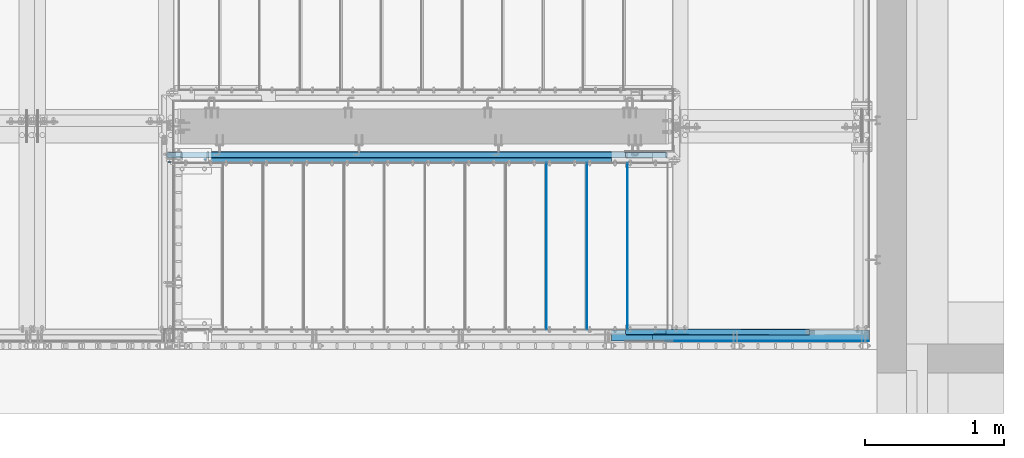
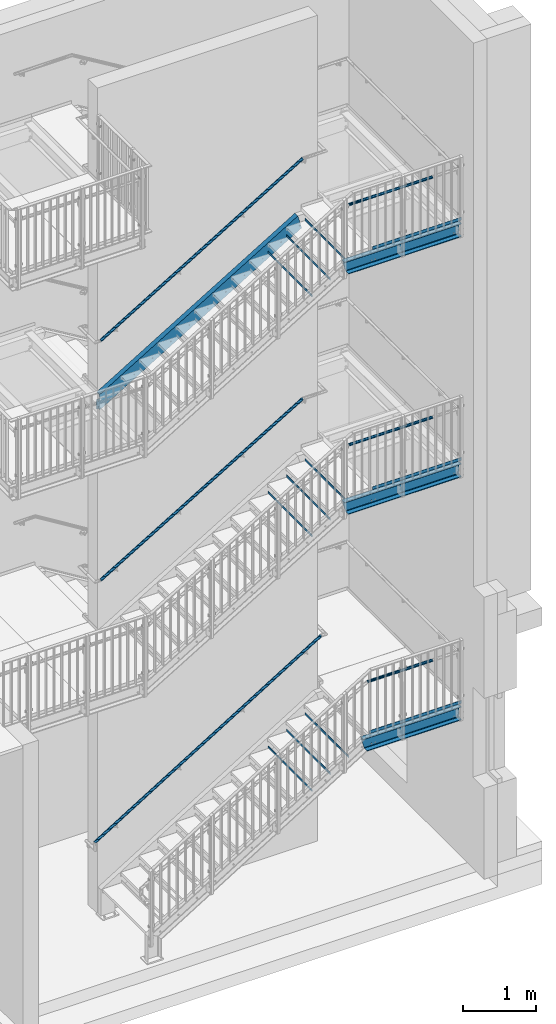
# One storey, part 33 of 410: 18 beams, 4 members, 47 openings.
"""IFC2X3 building model written with IfcOpenShell, lengths in millimetres."""

from ifc_helpers import new_model, entity, si_unit, converted_unit, point, frame, frame_2d, origin, origin_with_axes, origin_2d, origin_2d_with_axis, place, context, project, spatial, circle_curve, line_curve, trimmed, segment, composite_curve, rectangle, circle, hollow_circle, u_section, outline, extrude, clip, halfspace, material, element, save


model = new_model("IFC2X3")

# Units and contexts
model_context = context("Model", 3, precision=1e-09, world=origin_with_axes())
ifc_project = project(units=[si_unit("LENGTHUNIT", "METRE", prefix="MILLI"), si_unit("AREAUNIT", "SQUARE_METRE"), si_unit("VOLUMEUNIT", "CUBIC_METRE"), converted_unit("PLANEANGLEUNIT", "DEGREE", entity("IfcPlaneAngleMeasure", 0.01745329), si_unit("PLANEANGLEUNIT", "RADIAN"), dimensions=[0, 0, 0, 0, 0, 0, 0])], contexts=[model_context])

# Site, building, storey
site_placement = place(None, origin_with_axes())
site = spatial("IfcSite", under=ifc_project, at=site_placement, Name="mKR Teilneubau & Sanierung BA1 - Ostfildern", CompositionType="ELEMENT")
building_placement = place(site_placement, origin_with_axes())
building = spatial("IfcBuilding", under=site, at=building_placement, Name="Struktur 1", CompositionType="ELEMENT")
storey_placement = place(building_placement, origin_with_axes())
storey = spatial("IfcBuildingStorey", under=building, at=storey_placement, Name="Default Storey", CompositionType="ELEMENT", Elevation=0.0)

# Beams
ifc_material = material(Name="S235JR")
for number, where, z_axis, x_axis in (
    (1, (918.5, 15519.999999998, -2840.8), (0.0, -1.0, 0.0), (1.0, 0.0, 0.0)),
    (2, (1208.5, 15519.999999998, -2662.0), (0.0, -1.0, 0.0), (1.0, 0.0, 0.0)),
    (3, (1498.5, 15519.999999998, -2483.2), (0.0, -1.0, 0.0), (1.0, 0.0, 0.0)),
    (4, (918.5, 15519.999999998, 1411.304348), (0.0, -1.0, 0.0), (1.0, 0.0, 0.0)),
    (5, (1208.5, 15519.999999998, 1585.2173915), (0.0, -1.0, 0.0), (1.0, 0.0, 0.0)),
    (6, (1498.5, 15519.999999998, 1759.130435), (0.0, -1.0, 0.0), (1.0, 0.0, 0.0)),
    (7, (918.5, 15519.999999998, 5420.0), (0.0, -1.0, 0.0), (1.0, 0.0, 0.0)),
    (8, (1208.5, 15519.999999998, 5595.0), (0.0, -1.0, 0.0), (1.0, 0.0, 0.0)),
    (9, (1498.5, 15519.999999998, 5770.0), (0.0, -1.0, 0.0), (1.0, 0.0, 0.0)),
):
    element("IfcBeam", number, at=place(None, frame(where, z_axis=z_axis, x_axis=x_axis)), inside=storey, material=ifc_material, Name="-", ObjectType="-", context=model_context, shape_type="SweptSolid", body=[
        extrude(rectangle(XDim=3.0, YDim=40.0, at=origin_2d()), origin(), (0.0, 0.0, -1.0), 1200.0),
    ])

# Member, openings
member_1_placement = place(None, frame((1644.189532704, 16741.399999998, 5892.586142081), z_axis=(-0.856187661, 0.0, -0.516664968), x_axis=(0.0, 1.0, 0.0)))
member_1 = element("IfcMember", 10, at=member_1_placement, inside=storey, material=ifc_material, Name="-", ObjectType="-", context=model_context, shape_type="Clipping", body=[
    clip(extrude(u_section(Depth=220.0, FlangeWidth=80.0, WebThickness=9.0, FlangeThickness=12.5, FilletRadius=12.5, EdgeRadius=6.0, FlangeSlope=4.574, at=frame_2d((18.6, 0.0))), origin(), (0.0, 0.0, 1.0), 4079.932349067), halfspace(frame((-16741.399999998, 4975.331939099, 1651.168270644), z_axis=(0.0, -0.268153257, 0.963376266), x_axis=(-1.0, 0.0, 0.0)), True)),
])
opening_1_placement = place(member_1_placement, frame((-121.5, 180.2408283, 4067.228885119), z_axis=(-1.0, 0.0, 0.0), x_axis=(0.0, -0.856187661, -0.516664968)))
element("IfcOpeningElement", 11, at=opening_1_placement, cuts=member_1, ObjectType="Opening", context=model_context, shape_type="SweptSolid", body=[
    extrude(outline(composite_curve([segment(trimmed(line_curve((0.0, 0.0), (1.0, 0.0), 108.128512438), [point((0.0, 0.0))], [point((108.128512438, 0.0))], True, "CARTESIAN"), True, "CONTINUOUS"), segment(trimmed(circle_curve(frame_2d((108.128512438, 5.001), x_axis=(1.0, 0.0)), 5.001), [point((108.128512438, 0.0))], [point((113.129512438, 5.001))], True, "CARTESIAN"), True, "CONTINUOUS"), segment(trimmed(line_curve((113.129512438, 5.001), (0.0, 1.0), 47.048), [point((113.129512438, 5.001))], [point((113.129512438, 52.049))], True, "CARTESIAN"), True, "CONTINUOUS"), segment(trimmed(line_curve((113.129512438, 52.049), (1.0, 0.0), 159.998), [point((113.129512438, 52.049))], [point((273.127512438, 52.049))], True, "CARTESIAN"), True, "CONTINUOUS"), segment(trimmed(line_curve((273.127512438, 52.049), (0.0, -1.0), 47.048), [point((273.127512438, 52.049))], [point((273.127512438, 5.001))], True, "CARTESIAN"), True, "CONTINUOUS"), segment(trimmed(circle_curve(frame_2d((278.128512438, 5.001), x_axis=(1.0, 0.0)), 5.001), [point((273.127512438, 5.001))], [point((278.128512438, 0.0))], True, "CARTESIAN"), True, "CONTINUOUS"), segment(trimmed(line_curve((278.128512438, 0.0), (1.0, 0.0), 97.344799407), [point((278.128512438, 0.0))], [point((375.473311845, 0.0))], True, "CARTESIAN"), True, "CONTINUOUS"), segment(trimmed(line_curve((375.473311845, 0.0), (0.0, 1.0), 221.769754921), [point((375.473311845, 0.0))], [point((375.473311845, 221.769754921))], True, "CARTESIAN"), True, "CONTINUOUS"), segment(trimmed(line_curve((375.473311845, 221.769754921), (-1.0, 0.0), 375.473311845), [point((375.473311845, 221.769754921))], [point((0.0, 221.769754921))], True, "CARTESIAN"), True, "CONTINUOUS"), segment(trimmed(line_curve((0.0, 221.769754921), (0.0, -1.0), 221.769754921), [point((0.0, 221.769754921))], [point((0.0, 0.0))], True, "CARTESIAN"), True, "CONTINUOUS")], self_intersect=False)), origin(), (0.0, 0.0, -1.0), 280.2),
])
opening_2_placement = place(member_1_placement, frame((-21.9, 48.173289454, 1318.728399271), z_axis=(1.0, 0.0, 0.0), x_axis=(0.0, 0.516664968, -0.856187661)))
element("IfcOpeningElement", 12, at=opening_2_placement, cuts=member_1, ObjectType="Opening", context=model_context, shape_type="SweptSolid", body=[
    extrude(circle(Radius=7.001, at=origin_2d_with_axis()), origin(), (0.0, 0.0, 1.0), 10.0),
])
opening_3_placement = place(member_1_placement, frame((-21.9, 48.173289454, 1657.43919036), z_axis=(1.0, 0.0, 0.0), x_axis=(0.0, 0.516664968, -0.856187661)))
element("IfcOpeningElement", 13, at=opening_3_placement, cuts=member_1, ObjectType="Opening", context=model_context, shape_type="SweptSolid", body=[
    extrude(circle(Radius=7.001, at=origin_2d_with_axis()), origin(), (0.0, 0.0, 1.0), 10.0),
])
opening_4_placement = place(member_1_placement, frame((-21.9, -44.826404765, 1472.842178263), z_axis=(1.0, 0.0, 0.0), x_axis=(0.0, 0.516664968, -0.856187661)))
element("IfcOpeningElement", 14, at=opening_4_placement, cuts=member_1, ObjectType="Opening", context=model_context, shape_type="SweptSolid", body=[
    extrude(circle(Radius=7.001, at=origin_2d_with_axis()), origin(), (0.0, 0.0, 1.0), 10.0),
])
opening_5_placement = place(member_1_placement, frame((-21.9, 48.173289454, 980.017608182), z_axis=(1.0, 0.0, 0.0), x_axis=(0.0, 0.516664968, -0.856187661)))
element("IfcOpeningElement", 15, at=opening_5_placement, cuts=member_1, ObjectType="Opening", context=model_context, shape_type="SweptSolid", body=[
    extrude(circle(Radius=7.001, at=origin_2d_with_axis()), origin(), (0.0, 0.0, 1.0), 10.0),
])
opening_6_placement = place(member_1_placement, frame((-21.9, 48.173289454, 641.306817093), z_axis=(1.0, 0.0, 0.0), x_axis=(0.0, 0.516664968, -0.856187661)))
element("IfcOpeningElement", 16, at=opening_6_placement, cuts=member_1, ObjectType="Opening", context=model_context, shape_type="SweptSolid", body=[
    extrude(circle(Radius=7.001, at=origin_2d_with_axis()), origin(), (0.0, 0.0, 1.0), 10.0),
])
opening_7_placement = place(member_1_placement, frame((-21.9, -44.826404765, 795.420596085), z_axis=(1.0, 0.0, 0.0), x_axis=(0.0, 0.516664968, -0.856187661)))
element("IfcOpeningElement", 17, at=opening_7_placement, cuts=member_1, ObjectType="Opening", context=model_context, shape_type="SweptSolid", body=[
    extrude(circle(Radius=7.001, at=origin_2d_with_axis()), origin(), (0.0, 0.0, 1.0), 10.0),
])
opening_8_placement = place(member_1_placement, frame((-21.9, -44.826404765, 456.709804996), z_axis=(1.0, 0.0, 0.0), x_axis=(0.0, 0.516664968, -0.856187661)))
element("IfcOpeningElement", 18, at=opening_8_placement, cuts=member_1, ObjectType="Opening", context=model_context, shape_type="SweptSolid", body=[
    extrude(circle(Radius=7.001, at=origin_2d_with_axis()), origin(), (0.0, 0.0, 1.0), 10.0),
])
opening_9_placement = place(member_1_placement, frame((-21.9, 48.173289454, 302.596026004), z_axis=(1.0, 0.0, 0.0), x_axis=(0.0, 0.516664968, -0.856187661)))
element("IfcOpeningElement", 19, at=opening_9_placement, cuts=member_1, ObjectType="Opening", context=model_context, shape_type="SweptSolid", body=[
    extrude(circle(Radius=7.001, at=origin_2d_with_axis()), origin(), (0.0, 0.0, 1.0), 10.0),
])
opening_10_placement = place(member_1_placement, frame((-21.9, -44.826404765, 1134.131387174), z_axis=(1.0, 0.0, 0.0), x_axis=(0.0, 0.516664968, -0.856187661)))
element("IfcOpeningElement", 20, at=opening_10_placement, cuts=member_1, ObjectType="Opening", context=model_context, shape_type="SweptSolid", body=[
    extrude(circle(Radius=7.001, at=origin_2d_with_axis()), origin(), (0.0, 0.0, 1.0), 10.0),
])
opening_11_placement = place(member_1_placement, frame((-21.9, 48.173289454, 2673.571563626), z_axis=(1.0, 0.0, 0.0), x_axis=(0.0, 0.516664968, -0.856187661)))
element("IfcOpeningElement", 21, at=opening_11_placement, cuts=member_1, ObjectType="Opening", context=model_context, shape_type="SweptSolid", body=[
    extrude(circle(Radius=7.001, at=origin_2d_with_axis()), origin(), (0.0, 0.0, 1.0), 10.0),
])
opening_12_placement = place(member_1_placement, frame((-21.9, 48.173289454, 2334.860772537), z_axis=(1.0, 0.0, 0.0), x_axis=(0.0, 0.516664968, -0.856187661)))
element("IfcOpeningElement", 22, at=opening_12_placement, cuts=member_1, ObjectType="Opening", context=model_context, shape_type="SweptSolid", body=[
    extrude(circle(Radius=7.001, at=origin_2d_with_axis()), origin(), (0.0, 0.0, 1.0), 10.0),
])
opening_13_placement = place(member_1_placement, frame((-21.9, -44.826404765, 1811.552969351), z_axis=(1.0, 0.0, 0.0), x_axis=(0.0, 0.516664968, -0.856187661)))
element("IfcOpeningElement", 23, at=opening_13_placement, cuts=member_1, ObjectType="Opening", context=model_context, shape_type="SweptSolid", body=[
    extrude(circle(Radius=7.001, at=origin_2d_with_axis()), origin(), (0.0, 0.0, 1.0), 10.0),
])
opening_14_placement = place(member_1_placement, frame((-21.9, -44.826404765, 2150.26376044), z_axis=(1.0, 0.0, 0.0), x_axis=(0.0, 0.516664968, -0.856187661)))
element("IfcOpeningElement", 24, at=opening_14_placement, cuts=member_1, ObjectType="Opening", context=model_context, shape_type="SweptSolid", body=[
    extrude(circle(Radius=7.001, at=origin_2d_with_axis()), origin(), (0.0, 0.0, 1.0), 10.0),
])
opening_15_placement = place(member_1_placement, frame((-21.9, -44.826404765, 3166.396133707), z_axis=(1.0, 0.0, 0.0), x_axis=(0.0, 0.516664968, -0.856187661)))
element("IfcOpeningElement", 25, at=opening_15_placement, cuts=member_1, ObjectType="Opening", context=model_context, shape_type="SweptSolid", body=[
    extrude(circle(Radius=7.001, at=origin_2d_with_axis()), origin(), (0.0, 0.0, 1.0), 10.0),
])
opening_16_placement = place(member_1_placement, frame((-21.9, 48.173289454, 3012.282354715), z_axis=(1.0, 0.0, 0.0), x_axis=(0.0, 0.516664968, -0.856187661)))
element("IfcOpeningElement", 26, at=opening_16_placement, cuts=member_1, ObjectType="Opening", context=model_context, shape_type="SweptSolid", body=[
    extrude(circle(Radius=7.001, at=origin_2d_with_axis()), origin(), (0.0, 0.0, 1.0), 10.0),
])
opening_17_placement = place(member_1_placement, frame((-21.9, -44.826404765, 3505.106924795), z_axis=(1.0, 0.0, 0.0), x_axis=(0.0, 0.516664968, -0.856187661)))
element("IfcOpeningElement", 27, at=opening_17_placement, cuts=member_1, ObjectType="Opening", context=model_context, shape_type="SweptSolid", body=[
    extrude(circle(Radius=7.001, at=origin_2d_with_axis()), origin(), (0.0, 0.0, 1.0), 10.0),
])
opening_18_placement = place(member_1_placement, frame((-21.9, -44.826404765, 2827.685342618), z_axis=(1.0, 0.0, 0.0), x_axis=(0.0, 0.516664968, -0.856187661)))
element("IfcOpeningElement", 28, at=opening_18_placement, cuts=member_1, ObjectType="Opening", context=model_context, shape_type="SweptSolid", body=[
    extrude(circle(Radius=7.001, at=origin_2d_with_axis()), origin(), (0.0, 0.0, 1.0), 10.0),
])
opening_19_placement = place(member_1_placement, frame((-21.9, 48.173289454, 3350.993145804), z_axis=(1.0, 0.0, 0.0), x_axis=(0.0, 0.516664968, -0.856187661)))
element("IfcOpeningElement", 29, at=opening_19_placement, cuts=member_1, ObjectType="Opening", context=model_context, shape_type="SweptSolid", body=[
    extrude(circle(Radius=7.001, at=origin_2d_with_axis()), origin(), (0.0, 0.0, 1.0), 10.0),
])
opening_20_placement = place(member_1_placement, frame((-21.9, -44.826404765, 2488.974551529), z_axis=(1.0, 0.0, 0.0), x_axis=(0.0, 0.516664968, -0.856187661)))
element("IfcOpeningElement", 30, at=opening_20_placement, cuts=member_1, ObjectType="Opening", context=model_context, shape_type="SweptSolid", body=[
    extrude(circle(Radius=7.001, at=origin_2d_with_axis()), origin(), (0.0, 0.0, 1.0), 10.0),
])
opening_21_placement = place(member_1_placement, frame((-11.9, 42.169146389, 4019.009548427), z_axis=(1.0, 0.0, 0.0), x_axis=(0.0, 1.0, 0.0)))
element("IfcOpeningElement", 31, at=opening_21_placement, cuts=member_1, ObjectType="Opening", context=model_context, shape_type="SweptSolid", body=[
    extrude(circle(Radius=9.001, at=frame_2d((4.650501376, -7.706545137), x_axis=(1.0, 0.0))), origin(), (0.0, 0.0, -1.0), 10.0),
])
opening_22_placement = place(member_1_placement, frame((-11.9, -43.449619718, 3967.343051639), z_axis=(1.0, 0.0, 0.0), x_axis=(0.0, 1.0, 0.0)))
element("IfcOpeningElement", 32, at=opening_22_placement, cuts=member_1, ObjectType="Opening", context=model_context, shape_type="SweptSolid", body=[
    extrude(circle(Radius=9.001, at=frame_2d((4.650501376, -7.706545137), x_axis=(1.0, 0.0))), origin(), (0.0, 0.0, -1.0), 10.0),
])
opening_23_placement = place(member_1_placement, frame((-21.9, 48.173289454, 1996.149981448), z_axis=(1.0, 0.0, 0.0), x_axis=(0.0, 0.516664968, -0.856187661)))
element("IfcOpeningElement", 33, at=opening_23_placement, cuts=member_1, ObjectType="Opening", context=model_context, shape_type="SweptSolid", body=[
    extrude(circle(Radius=7.001, at=origin_2d_with_axis()), origin(), (0.0, 0.0, 1.0), 10.0),
])

# Beam, openings
beam_1_placement = place(None, frame((3235.001468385, 15498.599999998, -2315.6), z_axis=(1.0, 0.0, 0.0), x_axis=(0.0, -1.0, 0.0)))
beam_1 = element("IfcBeam", 34, at=beam_1_placement, inside=storey, material=ifc_material, Name="-", ObjectType="-", context=model_context, shape_type="Clipping", body=[
    clip(extrude(u_section(Depth=220.0, FlangeWidth=80.0, WebThickness=9.0, FlangeThickness=12.5, FilletRadius=12.5, EdgeRadius=6.0, FlangeSlope=4.574, at=frame_2d((18.6, 0.0))), origin(), (0.0, 0.0, -1.0), 1793.311677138), halfspace(frame((15498.599999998, -2591.759085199, -2260.892532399), z_axis=(0.0, -0.272750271, 0.962084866), x_axis=(-1.0, 0.0, 0.0)), True)),
])
opening_24_placement = place(beam_1_placement, frame((-21.9, -1.6e-08, -1354.999999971), z_axis=(1.0, 0.0, 0.0), x_axis=(0.0, 0.0, 1.0)))
element("IfcOpeningElement", 35, at=opening_24_placement, cuts=beam_1, ObjectType="Opening", context=model_context, shape_type="SweptSolid", body=[
    extrude(circle(Radius=7.001, at=frame_2d((30.0, 60.0), x_axis=(1.0, 0.0))), origin(), (0.0, 0.0, 1.0), 10.0),
])
opening_25_placement = place(beam_1_placement, frame((-21.9, -1.6e-08, -1354.999999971), z_axis=(1.0, 0.0, 0.0), x_axis=(0.0, 0.0, 1.0)))
element("IfcOpeningElement", 36, at=opening_25_placement, cuts=beam_1, ObjectType="Opening", context=model_context, shape_type="SweptSolid", body=[
    extrude(circle(Radius=7.001, at=frame_2d((-30.0, 60.0), x_axis=(1.0, 0.0))), origin(), (0.0, 0.0, 1.0), 10.0),
])
opening_26_placement = place(beam_1_placement, frame((-21.9, -1.6e-08, -1354.999999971), z_axis=(1.0, 0.0, 0.0), x_axis=(0.0, 0.0, 1.0)))
element("IfcOpeningElement", 37, at=opening_26_placement, cuts=beam_1, ObjectType="Opening", context=model_context, shape_type="SweptSolid", body=[
    extrude(circle(Radius=7.001, at=frame_2d((30.0, -60.0), x_axis=(1.0, 0.0))), origin(), (0.0, 0.0, 1.0), 10.0),
])
opening_27_placement = place(beam_1_placement, frame((-21.9, -1.6e-08, -1354.999999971), z_axis=(1.0, 0.0, 0.0), x_axis=(0.0, 0.0, 1.0)))
element("IfcOpeningElement", 38, at=opening_27_placement, cuts=beam_1, ObjectType="Opening", context=model_context, shape_type="SweptSolid", body=[
    extrude(circle(Radius=7.001, at=frame_2d((-30.0, -60.0), x_axis=(1.0, 0.0))), origin(), (0.0, 0.0, 1.0), 10.0),
])
opening_28_placement = place(beam_1_placement, frame((-21.9, -1.6e-08, -54.999999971), z_axis=(1.0, 0.0, 0.0), x_axis=(0.0, 0.0, 1.0)))
element("IfcOpeningElement", 39, at=opening_28_placement, cuts=beam_1, ObjectType="Opening", context=model_context, shape_type="SweptSolid", body=[
    extrude(circle(Radius=7.001, at=frame_2d((30.0, 60.0), x_axis=(1.0, 0.0))), origin(), (0.0, 0.0, 1.0), 10.0),
])
opening_29_placement = place(beam_1_placement, frame((-21.9, -1.6e-08, -54.999999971), z_axis=(1.0, 0.0, 0.0), x_axis=(0.0, 0.0, 1.0)))
element("IfcOpeningElement", 40, at=opening_29_placement, cuts=beam_1, ObjectType="Opening", context=model_context, shape_type="SweptSolid", body=[
    extrude(circle(Radius=7.001, at=frame_2d((-30.0, 60.0), x_axis=(1.0, 0.0))), origin(), (0.0, 0.0, 1.0), 10.0),
])
opening_30_placement = place(beam_1_placement, frame((-21.9, -1.6e-08, -54.999999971), z_axis=(1.0, 0.0, 0.0), x_axis=(0.0, 0.0, 1.0)))
element("IfcOpeningElement", 41, at=opening_30_placement, cuts=beam_1, ObjectType="Opening", context=model_context, shape_type="SweptSolid", body=[
    extrude(circle(Radius=7.001, at=frame_2d((30.0, -60.0), x_axis=(1.0, 0.0))), origin(), (0.0, 0.0, 1.0), 10.0),
])
opening_31_placement = place(beam_1_placement, frame((-21.9, -1.6e-08, -54.999999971), z_axis=(1.0, 0.0, 0.0), x_axis=(0.0, 0.0, 1.0)))
element("IfcOpeningElement", 42, at=opening_31_placement, cuts=beam_1, ObjectType="Opening", context=model_context, shape_type="SweptSolid", body=[
    extrude(circle(Radius=7.001, at=frame_2d((-30.0, -60.0), x_axis=(1.0, 0.0))), origin(), (0.0, 0.0, 1.0), 10.0),
])

beam_2_placement = place(None, frame((3235.001468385, 15498.599999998, 1743.0434785), z_axis=(1.0, 0.0, 0.0), x_axis=(0.0, -1.0, 0.0)))
beam_2 = element("IfcBeam", 43, at=beam_2_placement, inside=storey, material=ifc_material, Name="-", ObjectType="-", context=model_context, shape_type="Clipping", body=[
    clip(extrude(u_section(Depth=220.0, FlangeWidth=80.0, WebThickness=9.0, FlangeThickness=12.5, FilletRadius=12.5, EdgeRadius=6.0, FlangeSlope=4.574, at=frame_2d((18.6, 0.0))), origin(), (0.0, 0.0, -1.0), 2085.639877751), halfspace(frame((15498.599999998, 1254.967899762, -1472.138243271), z_axis=(0.0, -0.266827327, 0.963744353), x_axis=(-1.0, 0.0, 0.0)), True)),
])
opening_32_placement = place(beam_2_placement, frame((-21.9, -1.6e-08, -54.999999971), z_axis=(1.0, 0.0, 0.0), x_axis=(0.0, 0.0, 1.0)))
element("IfcOpeningElement", 44, at=opening_32_placement, cuts=beam_2, ObjectType="Opening", context=model_context, shape_type="SweptSolid", body=[
    extrude(circle(Radius=7.001, at=frame_2d((30.0, 60.0), x_axis=(1.0, 0.0))), origin(), (0.0, 0.0, 1.0), 10.0),
])
opening_33_placement = place(beam_2_placement, frame((-21.9, -1.6e-08, -54.999999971), z_axis=(1.0, 0.0, 0.0), x_axis=(0.0, 0.0, 1.0)))
element("IfcOpeningElement", 45, at=opening_33_placement, cuts=beam_2, ObjectType="Opening", context=model_context, shape_type="SweptSolid", body=[
    extrude(circle(Radius=7.001, at=frame_2d((-30.0, 60.0), x_axis=(1.0, 0.0))), origin(), (0.0, 0.0, 1.0), 10.0),
])
opening_34_placement = place(beam_2_placement, frame((-21.9, -1.6e-08, -54.999999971), z_axis=(1.0, 0.0, 0.0), x_axis=(0.0, 0.0, 1.0)))
element("IfcOpeningElement", 46, at=opening_34_placement, cuts=beam_2, ObjectType="Opening", context=model_context, shape_type="SweptSolid", body=[
    extrude(circle(Radius=7.001, at=frame_2d((30.0, -60.0), x_axis=(1.0, 0.0))), origin(), (0.0, 0.0, 1.0), 10.0),
])
opening_35_placement = place(beam_2_placement, frame((-21.9, -1.6e-08, -54.999999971), z_axis=(1.0, 0.0, 0.0), x_axis=(0.0, 0.0, 1.0)))
element("IfcOpeningElement", 47, at=opening_35_placement, cuts=beam_2, ObjectType="Opening", context=model_context, shape_type="SweptSolid", body=[
    extrude(circle(Radius=7.001, at=frame_2d((-30.0, -60.0), x_axis=(1.0, 0.0))), origin(), (0.0, 0.0, 1.0), 10.0),
])
opening_36_placement = place(beam_2_placement, frame((-21.9, -1.6e-08, -1354.999999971), z_axis=(1.0, 0.0, 0.0), x_axis=(0.0, 0.0, 1.0)))
element("IfcOpeningElement", 48, at=opening_36_placement, cuts=beam_2, ObjectType="Opening", context=model_context, shape_type="SweptSolid", body=[
    extrude(circle(Radius=7.001, at=frame_2d((30.0, 60.0), x_axis=(1.0, 0.0))), origin(), (0.0, 0.0, 1.0), 10.0),
])
opening_37_placement = place(beam_2_placement, frame((-21.9, -1.6e-08, -1354.999999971), z_axis=(1.0, 0.0, 0.0), x_axis=(0.0, 0.0, 1.0)))
element("IfcOpeningElement", 49, at=opening_37_placement, cuts=beam_2, ObjectType="Opening", context=model_context, shape_type="SweptSolid", body=[
    extrude(circle(Radius=7.001, at=frame_2d((-30.0, 60.0), x_axis=(1.0, 0.0))), origin(), (0.0, 0.0, 1.0), 10.0),
])
opening_38_placement = place(beam_2_placement, frame((-21.9, -1.6e-08, -1354.999999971), z_axis=(1.0, 0.0, 0.0), x_axis=(0.0, 0.0, 1.0)))
element("IfcOpeningElement", 50, at=opening_38_placement, cuts=beam_2, ObjectType="Opening", context=model_context, shape_type="SweptSolid", body=[
    extrude(circle(Radius=7.001, at=frame_2d((30.0, -60.0), x_axis=(1.0, 0.0))), origin(), (0.0, 0.0, 1.0), 10.0),
])
opening_39_placement = place(beam_2_placement, frame((-21.9, -1.6e-08, -1354.999999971), z_axis=(1.0, 0.0, 0.0), x_axis=(0.0, 0.0, 1.0)))
element("IfcOpeningElement", 51, at=opening_39_placement, cuts=beam_2, ObjectType="Opening", context=model_context, shape_type="SweptSolid", body=[
    extrude(circle(Radius=7.001, at=frame_2d((-30.0, -60.0), x_axis=(1.0, 0.0))), origin(), (0.0, 0.0, 1.0), 10.0),
])

beam_3_placement = place(None, frame((1149.893005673, 15498.599999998, 5755.0), z_axis=(-1.0, 0.0, 0.0), x_axis=(0.0, -1.0, 0.0)))
beam_3 = element("IfcBeam", 52, at=beam_3_placement, inside=storey, material=ifc_material, Name="-", ObjectType="-", context=model_context, shape_type="Clipping", body=[
    clip(extrude(u_section(Depth=220.0, FlangeWidth=80.0, WebThickness=9.0, FlangeThickness=12.5, FilletRadius=12.5, EdgeRadius=6.0, FlangeSlope=4.574, at=frame_2d((18.6, 0.0))), origin(), (0.0, 0.0, -1.0), 2085.108462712), halfspace(frame((15498.599999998, -4975.331939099, -1651.168270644), z_axis=(0.0, 0.268153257, -0.963376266), x_axis=(-1.0, 0.0, 0.0)), True)),
])
opening_40_placement = place(beam_3_placement, frame((-21.9, 1.6e-08, -730.108462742), z_axis=(1.0, 0.0, 0.0), x_axis=(0.0, 0.0, -1.0)))
element("IfcOpeningElement", 53, at=opening_40_placement, cuts=beam_3, ObjectType="Opening", context=model_context, shape_type="SweptSolid", body=[
    extrude(circle(Radius=7.001, at=frame_2d((30.0, 60.0), x_axis=(1.0, 0.0))), origin(), (0.0, 0.0, 1.0), 10.0),
])
opening_41_placement = place(beam_3_placement, frame((-21.9, 1.6e-08, -730.108462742), z_axis=(1.0, 0.0, 0.0), x_axis=(0.0, 0.0, -1.0)))
element("IfcOpeningElement", 54, at=opening_41_placement, cuts=beam_3, ObjectType="Opening", context=model_context, shape_type="SweptSolid", body=[
    extrude(circle(Radius=7.001, at=frame_2d((-30.0, 60.0), x_axis=(1.0, 0.0))), origin(), (0.0, 0.0, 1.0), 10.0),
])
opening_42_placement = place(beam_3_placement, frame((-21.9, 1.6e-08, -730.108462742), z_axis=(1.0, 0.0, 0.0), x_axis=(0.0, 0.0, -1.0)))
element("IfcOpeningElement", 55, at=opening_42_placement, cuts=beam_3, ObjectType="Opening", context=model_context, shape_type="SweptSolid", body=[
    extrude(circle(Radius=7.001, at=frame_2d((30.0, -60.0), x_axis=(1.0, 0.0))), origin(), (0.0, 0.0, 1.0), 10.0),
])
opening_43_placement = place(beam_3_placement, frame((-21.9, 1.6e-08, -730.108462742), z_axis=(1.0, 0.0, 0.0), x_axis=(0.0, 0.0, -1.0)))
element("IfcOpeningElement", 56, at=opening_43_placement, cuts=beam_3, ObjectType="Opening", context=model_context, shape_type="SweptSolid", body=[
    extrude(circle(Radius=7.001, at=frame_2d((-30.0, -60.0), x_axis=(1.0, 0.0))), origin(), (0.0, 0.0, 1.0), 10.0),
])
opening_44_placement = place(beam_3_placement, frame((-21.9, 1.6e-08, -2030.108462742), z_axis=(1.0, 0.0, 0.0), x_axis=(0.0, 0.0, -1.0)))
element("IfcOpeningElement", 57, at=opening_44_placement, cuts=beam_3, ObjectType="Opening", context=model_context, shape_type="SweptSolid", body=[
    extrude(circle(Radius=7.001, at=frame_2d((30.0, 60.0), x_axis=(1.0, 0.0))), origin(), (0.0, 0.0, 1.0), 10.0),
])
opening_45_placement = place(beam_3_placement, frame((-21.9, 1.6e-08, -2030.108462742), z_axis=(1.0, 0.0, 0.0), x_axis=(0.0, 0.0, -1.0)))
element("IfcOpeningElement", 58, at=opening_45_placement, cuts=beam_3, ObjectType="Opening", context=model_context, shape_type="SweptSolid", body=[
    extrude(circle(Radius=7.001, at=frame_2d((-30.0, 60.0), x_axis=(1.0, 0.0))), origin(), (0.0, 0.0, 1.0), 10.0),
])
opening_46_placement = place(beam_3_placement, frame((-21.9, 1.6e-08, -2030.108462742), z_axis=(1.0, 0.0, 0.0), x_axis=(0.0, 0.0, -1.0)))
element("IfcOpeningElement", 59, at=opening_46_placement, cuts=beam_3, ObjectType="Opening", context=model_context, shape_type="SweptSolid", body=[
    extrude(circle(Radius=7.001, at=frame_2d((30.0, -60.0), x_axis=(1.0, 0.0))), origin(), (0.0, 0.0, 1.0), 10.0),
])
opening_47_placement = place(beam_3_placement, frame((-21.9, 1.6e-08, -2030.108462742), z_axis=(1.0, 0.0, 0.0), x_axis=(0.0, 0.0, -1.0)))
element("IfcOpeningElement", 60, at=opening_47_placement, cuts=beam_3, ObjectType="Opening", context=model_context, shape_type="SweptSolid", body=[
    extrude(circle(Radius=7.001, at=frame_2d((-30.0, -60.0), x_axis=(1.0, 0.0))), origin(), (0.0, 0.0, 1.0), 10.0),
])

# Beams
beam_4_placement = place(None, frame((1775.0, 15441.999999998, -2120.6), z_axis=(-1.0, 0.0, 0.0), x_axis=(0.0, -1.0, 0.0)))
element("IfcBeam", 61, at=beam_4_placement, inside=storey, material=ifc_material, Name="-", ObjectType="-", context=model_context, shape_type="SweptSolid", body=[
    extrude(rectangle(XDim=4.0, YDim=50.0, at=origin_2d()), origin(), (0.0, 0.0, -1.0), 1456.001468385),
])
beam_5_placement = place(None, frame((1825.001468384, 15441.999999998, 1938.0434785), z_axis=(-1.0, 0.0, 0.0), x_axis=(0.0, -1.0, 0.0)))
element("IfcBeam", 62, at=beam_5_placement, inside=storey, material=ifc_material, Name="-", ObjectType="-", context=model_context, shape_type="SweptSolid", body=[
    extrude(rectangle(XDim=4.0, YDim=50.0, at=origin_2d()), origin(), (0.0, 0.0, -1.0), 1406.000000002),
])
beam_6_placement = place(None, frame((1825.001468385, 15441.999999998, 5950.0), z_axis=(-1.0, 0.0, 0.0), x_axis=(0.0, -1.0, 0.0)))
element("IfcBeam", 63, at=beam_6_placement, inside=storey, material=ifc_material, Name="-", ObjectType="-", context=model_context, shape_type="SweptSolid", body=[
    extrude(rectangle(XDim=4.0, YDim=50.0, at=origin_2d()), origin(), (0.0, 0.0, -1.0), 1406.0),
])

# Members
member_2_placement = place(None, frame((-1725.744535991, 16775.0, 4812.720818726), z_axis=(-0.856187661, 0.0, -0.516664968), x_axis=(0.0, -1.0, 0.0)))
element("IfcMember", 64, at=member_2_placement, inside=storey, Name="-", ObjectType="-", context=model_context, shape_type="Clipping", body=[
    clip(clip(extrude(hollow_circle(Radius=21.2, WallThickness=3.2, at=origin_2d()), origin(), (0.0, 0.0, -1.0), 3788.060898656), halfspace(frame((16775.0, -5883.011695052, -2119.417884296), z_axis=(0.0, 0.268153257, 0.963376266), x_axis=(1.0, 0.0, 0.0)), True)), halfspace(frame((16775.0, -4920.512231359, 1338.489539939), z_axis=(0.0, -0.268153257, -0.963376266), x_axis=(-1.0, 0.0, 0.0)), True)),
])
member_3_placement = place(None, frame((-1725.809914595, 16775.0, 812.800325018), z_axis=(-0.857606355, 0.0, -0.51430666), x_axis=(0.0, -1.0, 0.0)))
element("IfcMember", 65, at=member_3_placement, inside=storey, Name="-", ObjectType="-", context=model_context, shape_type="Clipping", body=[
    clip(clip(extrude(hollow_circle(Radius=21.2, WallThickness=3.2, at=origin_2d()), origin(), (0.0, 0.0, -1.0), 3781.87369738), halfspace(frame((16775.0, -2163.250600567, -3151.834515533), z_axis=(0.0, 0.266827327, 0.963744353), x_axis=(1.0, 0.0, 0.0)), True)), halfspace(frame((16775.0, -1206.729394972, 302.991193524), z_axis=(0.0, -0.266827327, -0.963744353), x_axis=(-1.0, 0.0, 0.0)), True)),
])
member_4_placement = place(None, frame((1807.536473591, 16775.0, -1300.445169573), z_axis=(0.851214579, 0.0, 0.524817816), x_axis=(0.0, 1.0, 0.0)))
element("IfcMember", 66, at=member_4_placement, inside=storey, Name="-", ObjectType="-", context=model_context, shape_type="Clipping", body=[
    clip(clip(extrude(hollow_circle(Radius=21.2, WallThickness=3.2, at=origin_2d()), origin(), (0.0, 0.0, -1.0), 4254.817622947), halfspace(frame((-16775.0, 1686.192889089, 446.87039105), z_axis=(0.0, 0.272750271, -0.962084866), x_axis=(-1.0, 0.0, 0.0)), True)), halfspace(frame((-16775.0, 135.293837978, -4296.006367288), z_axis=(0.0, 0.487433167, 0.873160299), x_axis=(1.0, 0.0, 0.0)), True)),
])

# Beams
beam_7_placement = place(None, frame((1459.76033129, 15505.999999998, 2741.8434785), z_axis=(-1.0, 0.0, 0.0), x_axis=(0.0, -1.0, 0.0)))
element("IfcBeam", 67, at=beam_7_placement, inside=storey, Name="-", ObjectType="-", context=model_context, shape_type="Clipping", body=[
    clip(extrude(hollow_circle(Radius=21.2, WallThickness=3.2, at=origin_2d()), origin(), (0.0, 0.0, -1.0), 1345.238885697), halfspace(frame((15505.999999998, -2163.250600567, -630.039181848), z_axis=(0.0, 0.266827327, -0.963744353), x_axis=(-1.0, 0.0, 0.0)), True)),
])
beam_8_placement = place(None, frame((2804.999216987, 15505.999999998, -1316.8), z_axis=(1.0, 0.0, 0.0), x_axis=(0.0, 1.0, 0.0)))
element("IfcBeam", 68, at=beam_8_placement, inside=storey, Name="-", ObjectType="-", context=model_context, shape_type="Clipping", body=[
    clip(extrude(hollow_circle(Radius=21.2, WallThickness=3.2, at=origin_2d()), origin(), (0.0, 0.0, -1.0), 1055.151906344), halfspace(frame((-15505.999999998, 1686.192889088, -1502.022297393), z_axis=(0.0, 0.272750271, 0.962084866), x_axis=(1.0, 0.0, 0.0)), True)),
])
beam_9_placement = place(None, frame((1459.779866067, 15505.999999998, 6753.8), z_axis=(-1.0, 0.0, 0.0), x_axis=(0.0, -1.0, 0.0)))
element("IfcBeam", 69, at=beam_9_placement, inside=storey, Name="-", ObjectType="-", context=model_context, shape_type="Clipping", body=[
    clip(extrude(hollow_circle(Radius=21.2, WallThickness=3.2, at=origin_2d()), origin(), (0.0, 0.0, -1.0), 1345.21935092), halfspace(frame((15505.999999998, -5883.011695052, -1668.643014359), z_axis=(0.0, 0.268153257, -0.963376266), x_axis=(-1.0, 0.0, 0.0)), True)),
])

save(model, "model.ifc")
